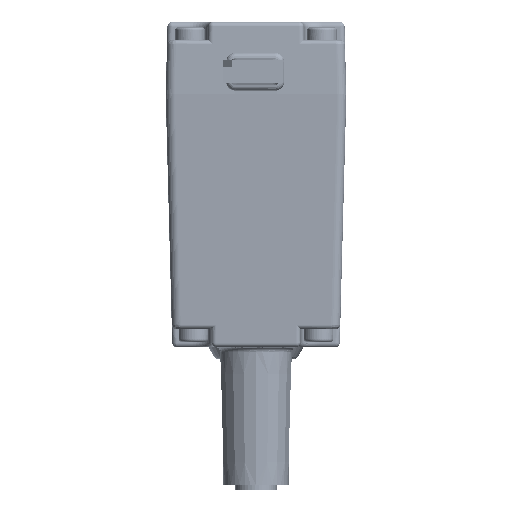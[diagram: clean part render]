
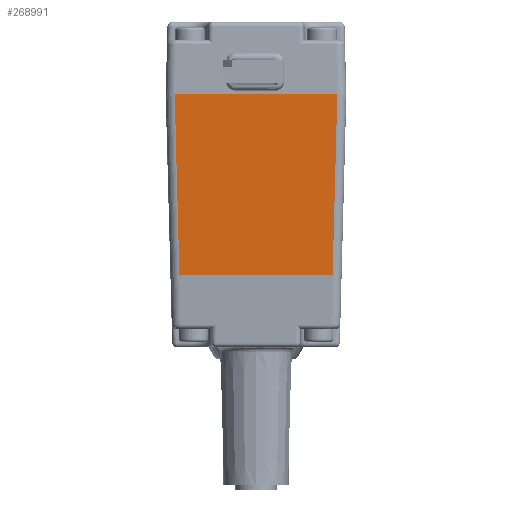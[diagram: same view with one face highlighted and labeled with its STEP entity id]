
A CAD part, left-side view. The second image highlights one B-rep face of the part: STEP entity #268991.
In plain terms, the highlighted planar face has unit normal (-1, 0, -0.026).
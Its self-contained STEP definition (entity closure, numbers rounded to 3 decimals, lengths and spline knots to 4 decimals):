
#41285 = EDGE_CURVE ( 'NONE', #90022, #90025, #65413, .T. ) ;
#65409 = DIRECTION ( 'NONE',  ( 0., -1., 0. ) ) ;
#65411 = VECTOR ( 'NONE', #65409, 39.3701 ) ;
#65412 = CARTESIAN_POINT ( 'NONE',  ( -0.7874, 0., 0.7874 ) ) ;
#65413 = LINE ( 'NONE', #65412, #65411 ) ;
#90022 = VERTEX_POINT ( 'NONE', #251094 ) ;
#90025 = VERTEX_POINT ( 'NONE', #251040 ) ;
#90037 = VERTEX_POINT ( 'NONE', #251016 ) ;
#90043 = EDGE_CURVE ( 'NONE', #90037, #90048, #251008, .T. ) ;
#90048 = VERTEX_POINT ( 'NONE', #250994 ) ;
#169005 = DIRECTION ( 'NONE',  ( -0.026, -0.026, 0.999 ) ) ;
#169006 = VECTOR ( 'NONE', #169005, 39.3701 ) ;
#169008 = CARTESIAN_POINT ( 'NONE',  ( -0.7668, -0.3337, 0. ) ) ;
#169009 = LINE ( 'NONE', #169008, #169006 ) ;
#169092 = CARTESIAN_POINT ( 'NONE',  ( -0.7668, -0.3337, 0. ) ) ;
#175963 = DIRECTION ( 'NONE',  ( 0., -1., 0. ) ) ;
#175964 = VECTOR ( 'NONE', #175963, 39.3701 ) ;
#175965 = CARTESIAN_POINT ( 'NONE',  ( -0.7668, 0., 0. ) ) ;
#175966 = LINE ( 'NONE', #175965, #175964 ) ;
#178032 = CARTESIAN_POINT ( 'NONE',  ( -0.7668, 0.3337, 0. ) ) ;
#181415 = DIRECTION ( 'NONE',  ( 0., -1., 0. ) ) ;
#181416 = VECTOR ( 'NONE', #181415, 39.3701 ) ;
#181417 = CARTESIAN_POINT ( 'NONE',  ( -0.7874, 0.0906, 0.7874 ) ) ;
#181418 = LINE ( 'NONE', #181417, #181416 ) ;
#184876 = DIRECTION ( 'NONE',  ( -0.026, 0.026, 0.999 ) ) ;
#184877 = VECTOR ( 'NONE', #184876, 39.3701 ) ;
#184878 = CARTESIAN_POINT ( 'NONE',  ( -0.7875, 0.3544, 0.7904 ) ) ;
#184879 = LINE ( 'NONE', #184878, #184877 ) ;
#184898 = DIRECTION ( 'NONE',  ( -0.026, 0., 1. ) ) ;
#184899 = DIRECTION ( 'NONE',  ( -1., 0., -0.026 ) ) ;
#184900 = CARTESIAN_POINT ( 'NONE',  ( -0.7874, 0.4563, 0.7874 ) ) ;
#184901 = AXIS2_PLACEMENT_3D ( 'NONE', #184900, #184899, #184898 ) ;
#184902 = PLANE ( 'NONE',  #184901 ) ;
#184903 = FACE_OUTER_BOUND ( 'NONE', #269002, .T. ) ;
#201476 = EDGE_CURVE ( 'NONE', #201490, #90048, #169009, .T. ) ;
#201490 = VERTEX_POINT ( 'NONE', #169092 ) ;
#250994 = CARTESIAN_POINT ( 'NONE',  ( -0.7874, -0.3543, 0.7874 ) ) ;
#251001 = DIRECTION ( 'NONE',  ( 0., -1., 0. ) ) ;
#251003 = VECTOR ( 'NONE', #251001, 39.3701 ) ;
#251006 = CARTESIAN_POINT ( 'NONE',  ( -0.7874, 0., 0.7874 ) ) ;
#251008 = LINE ( 'NONE', #251006, #251003 ) ;
#251016 = CARTESIAN_POINT ( 'NONE',  ( -0.7874, -0.0906, 0.7874 ) ) ;
#251040 = CARTESIAN_POINT ( 'NONE',  ( -0.7874, 0.0906, 0.7874 ) ) ;
#251094 = CARTESIAN_POINT ( 'NONE',  ( -0.7874, 0.3543, 0.7874 ) ) ;
#267189 = ORIENTED_EDGE ( 'NONE', *, *, #268129, .F. ) ;
#267197 = ORIENTED_EDGE ( 'NONE', *, *, #41285, .F. ) ;
#267323 = EDGE_CURVE ( 'NONE', #267393, #201490, #175966, .T. ) ;
#267369 = ORIENTED_EDGE ( 'NONE', *, *, #201476, .T. ) ;
#267393 = VERTEX_POINT ( 'NONE', #178032 ) ;
#267448 = EDGE_CURVE ( 'NONE', #90025, #90037, #181418, .T. ) ;
#267539 = ORIENTED_EDGE ( 'NONE', *, *, #267323, .T. ) ;
#267551 = ORIENTED_EDGE ( 'NONE', *, *, #90043, .F. ) ;
#267572 = ORIENTED_EDGE ( 'NONE', *, *, #267448, .F. ) ;
#268129 = EDGE_CURVE ( 'NONE', #267393, #90022, #184879, .T. ) ;
#268991 = ADVANCED_FACE ( 'NONE', ( #184903 ), #184902, .T. ) ;
#269002 = EDGE_LOOP ( 'NONE', ( #267197, #267189, #267539, #267369, #267551, #267572 ) ) ;
